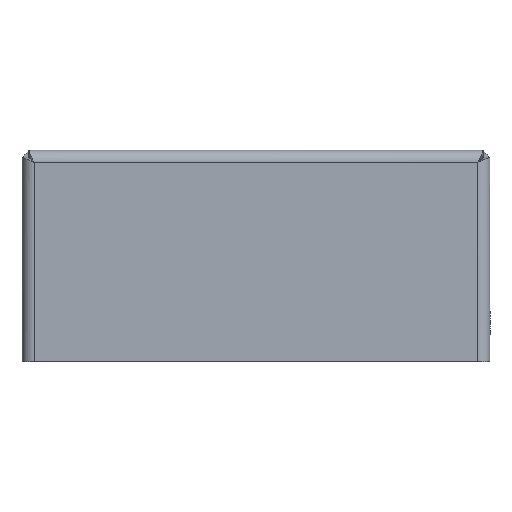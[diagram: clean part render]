
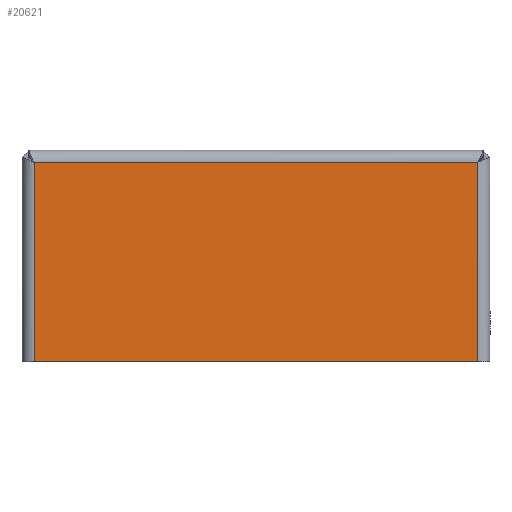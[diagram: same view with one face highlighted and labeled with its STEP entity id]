
A CAD part, front view. The second image highlights one B-rep face of the part: STEP entity #20621.
In plain terms, the highlighted planar face has unit normal (0, -1, 0).
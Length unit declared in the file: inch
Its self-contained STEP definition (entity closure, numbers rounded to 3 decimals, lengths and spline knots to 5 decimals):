
#2605 = CARTESIAN_POINT ( 'NONE',  ( -3.46597, 0.14667, 4.76847 ) ) ;
#3907 = VERTEX_POINT ( 'NONE', #7934 ) ;
#3964 = VECTOR ( 'NONE', #13399, 39.37008 ) ;
#4232 = VECTOR ( 'NONE', #36016, 39.37008 ) ;
#4713 = LINE ( 'NONE', #33169, #4232 ) ;
#7361 = CARTESIAN_POINT ( 'NONE',  ( -1.19676, 0.14667, 4.88847 ) ) ;
#7730 = VERTEX_POINT ( 'NONE', #28166 ) ;
#7934 = CARTESIAN_POINT ( 'NONE',  ( -1.19676, 0.14667, 2.82847 ) ) ;
#9064 = EDGE_LOOP ( 'NONE', ( #25451, #18008, #11481, #15870 ) ) ;
#9924 = DIRECTION ( 'NONE',  ( 0., 0., 1. ) ) ;
#10081 = CARTESIAN_POINT ( 'NONE',  ( 3.12324, 0.14667, 2.82847 ) ) ;
#10178 = DIRECTION ( 'NONE',  ( 0., 1., 0. ) ) ;
#10311 = CARTESIAN_POINT ( 'NONE',  ( 3.18324, 0.14667, 4.88847 ) ) ;
#11481 = ORIENTED_EDGE ( 'NONE', *, *, #13924, .F. ) ;
#11618 = AXIS2_PLACEMENT_3D ( 'NONE', #10311, #10178, #9924 ) ;
#11891 = LINE ( 'NONE', #7361, #3964 ) ;
#13399 = DIRECTION ( 'NONE',  ( 0., 0., 1. ) ) ;
#13924 = EDGE_CURVE ( 'NONE', #16694, #3907, #14712, .T. ) ;
#14712 = LINE ( 'NONE', #15646, #31479 ) ;
#15636 = VERTEX_POINT ( 'NONE', #35411 ) ;
#15646 = CARTESIAN_POINT ( 'NONE',  ( 3.18324, 0.14667, 2.82847 ) ) ;
#15870 = ORIENTED_EDGE ( 'NONE', *, *, #24670, .F. ) ;
#16117 = EDGE_CURVE ( 'NONE', #7730, #15636, #32119, .T. ) ;
#16216 = VECTOR ( 'NONE', #37952, 39.37008 ) ;
#16694 = VERTEX_POINT ( 'NONE', #10081 ) ;
#18008 = ORIENTED_EDGE ( 'NONE', *, *, #19881, .F. ) ;
#18795 = DIRECTION ( 'NONE',  ( -1., 0., 0. ) ) ;
#19881 = EDGE_CURVE ( 'NONE', #3907, #7730, #11891, .T. ) ;
#20621 = ADVANCED_FACE ( 'NONE', ( #23974 ), #36763, .F. ) ;
#23974 = FACE_OUTER_BOUND ( 'NONE', #9064, .T. ) ;
#24670 = EDGE_CURVE ( 'NONE', #15636, #16694, #4713, .T. ) ;
#25451 = ORIENTED_EDGE ( 'NONE', *, *, #16117, .F. ) ;
#28166 = CARTESIAN_POINT ( 'NONE',  ( -1.19676, 0.14667, 4.76847 ) ) ;
#31479 = VECTOR ( 'NONE', #18795, 39.37008 ) ;
#32119 = LINE ( 'NONE', #2605, #16216 ) ;
#33169 = CARTESIAN_POINT ( 'NONE',  ( 3.12324, 0.14667, 4.88847 ) ) ;
#35411 = CARTESIAN_POINT ( 'NONE',  ( 3.12324, 0.14667, 4.76847 ) ) ;
#36016 = DIRECTION ( 'NONE',  ( 0., 0., -1. ) ) ;
#36763 = PLANE ( 'NONE',  #11618 ) ;
#37952 = DIRECTION ( 'NONE',  ( 1., 0., 0. ) ) ;
